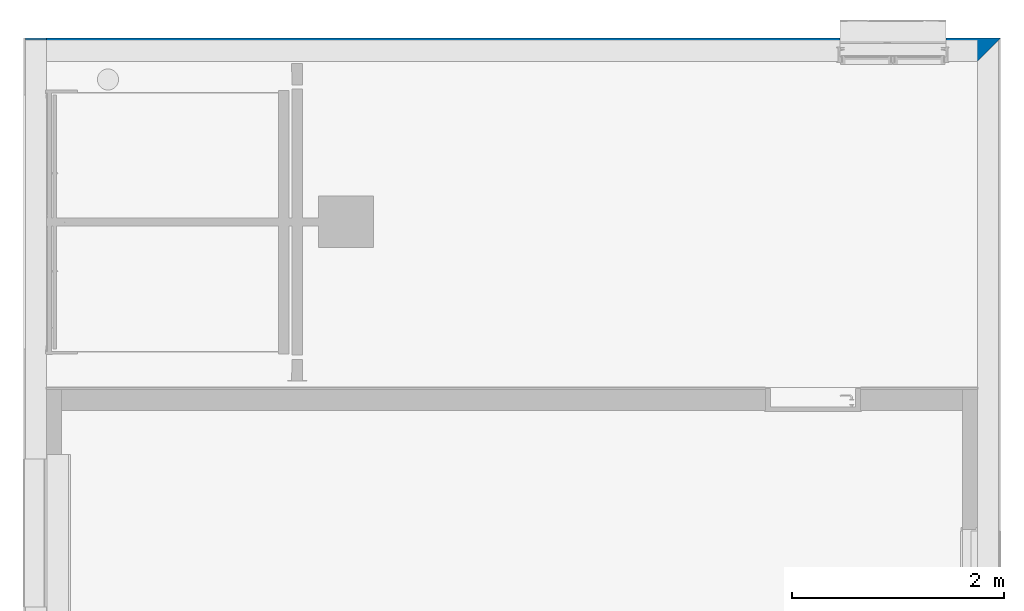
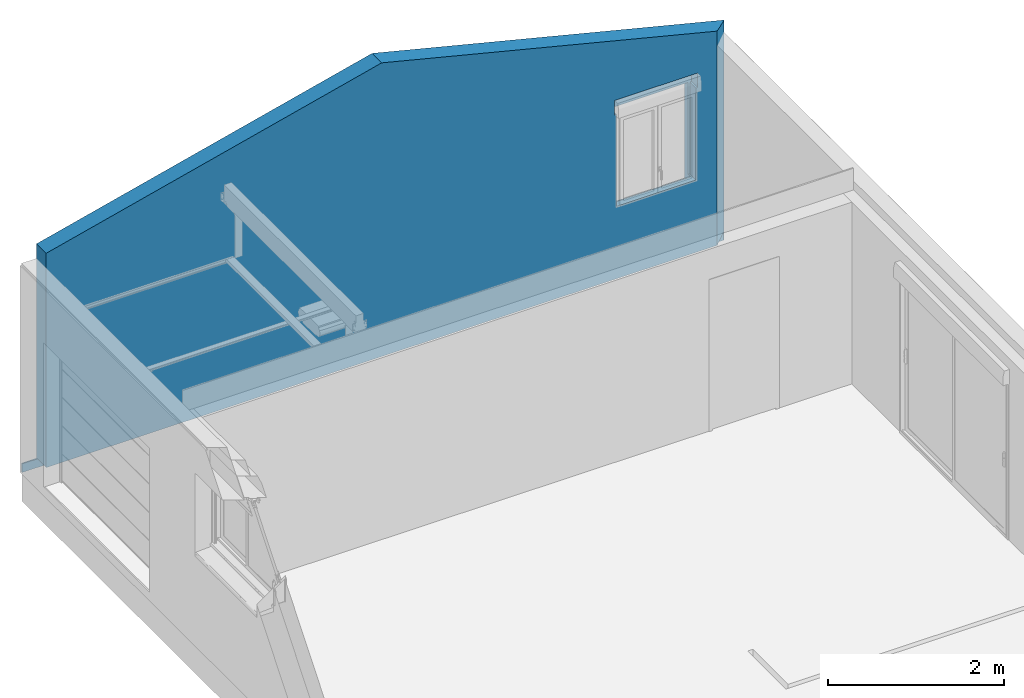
# One storey, part 6 of 7: 1 wall.
"""IFC2X3 building model written with IfcOpenShell, lengths in metres."""

from ifc_helpers import new_model, entity, si_unit, converted_unit, derived_unit, direction, frame, origin, place, context, subcontext, project, spatial, faceted_brep, material, layer, layer_set, type_object, element, save


model = new_model("IFC2X3")

# Units and contexts
model_context = context("Model", 3, precision=1e-05, world=origin(), true_north=direction((6.123031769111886e-17, 1.0)))
body_context = subcontext(model_context, "Body", "Model", "MODEL_VIEW")
ifc_project = project(units=[si_unit("LENGTHUNIT", "METRE"), si_unit("AREAUNIT", "SQUARE_METRE"), si_unit("VOLUMEUNIT", "CUBIC_METRE"), converted_unit("PLANEANGLEUNIT", "DEGREE", entity("IfcRatioMeasure", 0.017453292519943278), si_unit("PLANEANGLEUNIT", "RADIAN"), dimensions=[0, 0, 0, 0, 0, 0, 0]), si_unit("MASSUNIT", "GRAM", prefix="KILO"), derived_unit("MASSDENSITYUNIT", [(si_unit("MASSUNIT", "GRAM", prefix="KILO"), 1), (si_unit("LENGTHUNIT", "METRE"), -3)]), derived_unit("IONCONCENTRATIONUNIT", [(si_unit("MASSUNIT", "GRAM", prefix="KILO"), 1), (si_unit("LENGTHUNIT", "METRE"), -3)]), derived_unit("MOMENTOFINERTIAUNIT", [(si_unit("LENGTHUNIT", "METRE"), 4)]), si_unit("TIMEUNIT", "SECOND"), si_unit("FREQUENCYUNIT", "HERTZ"), si_unit("THERMODYNAMICTEMPERATUREUNIT", "DEGREE_CELSIUS"), derived_unit("THERMALTRANSMITTANCEUNIT", [(si_unit("MASSUNIT", "GRAM", prefix="KILO"), 1), (si_unit("THERMODYNAMICTEMPERATUREUNIT", "KELVIN"), -1), (si_unit("TIMEUNIT", "SECOND"), -3)]), derived_unit("THERMALCONDUCTANCEUNIT", [(si_unit("MASSUNIT", "GRAM", prefix="KILO"), 1), (si_unit("THERMODYNAMICTEMPERATUREUNIT", "KELVIN"), -1), (si_unit("TIMEUNIT", "SECOND"), -3), (si_unit("LENGTHUNIT", "METRE"), 1)]), derived_unit("VOLUMETRICFLOWRATEUNIT", [(si_unit("LENGTHUNIT", "METRE"), 3), (si_unit("TIMEUNIT", "SECOND"), -1)]), derived_unit("MASSFLOWRATEUNIT", [(si_unit("MASSUNIT", "GRAM", prefix="KILO"), 1), (si_unit("TIMEUNIT", "SECOND"), -1)]), derived_unit("ROTATIONALFREQUENCYUNIT", [(si_unit("TIMEUNIT", "SECOND"), -1)]), si_unit("ELECTRICCURRENTUNIT", "AMPERE"), si_unit("ELECTRICVOLTAGEUNIT", "VOLT"), si_unit("POWERUNIT", "WATT"), si_unit("FORCEUNIT", "NEWTON", prefix="KILO"), si_unit("ILLUMINANCEUNIT", "LUX"), si_unit("LUMINOUSFLUXUNIT", "LUMEN"), si_unit("LUMINOUSINTENSITYUNIT", "CANDELA"), derived_unit("USERDEFINED", [(si_unit("MASSUNIT", "GRAM", prefix="KILO"), -1), (si_unit("LENGTHUNIT", "METRE"), -2), (si_unit("TIMEUNIT", "SECOND"), 3), (si_unit("LUMINOUSFLUXUNIT", "LUMEN"), 1)]), derived_unit("USERDEFINED", [(si_unit("MASSUNIT", "GRAM", prefix="KILO"), 1), (si_unit("TIMEUNIT", "SECOND"), -3), (si_unit("LENGTHUNIT", "METRE"), 3), (si_unit("ELECTRICCURRENTUNIT", "AMPERE"), -2)]), derived_unit("SOUNDPOWERUNIT", [(si_unit("MASSUNIT", "GRAM", prefix="KILO"), 1), (si_unit("TIMEUNIT", "SECOND"), -3), (si_unit("LENGTHUNIT", "METRE"), 2)]), derived_unit("SOUNDPRESSUREUNIT", [(si_unit("MASSUNIT", "GRAM", prefix="KILO"), 1), (si_unit("LENGTHUNIT", "METRE"), -1), (si_unit("TIMEUNIT", "SECOND"), -2)]), derived_unit("LINEARVELOCITYUNIT", [(si_unit("LENGTHUNIT", "METRE"), 1), (si_unit("TIMEUNIT", "SECOND"), -1)]), si_unit("PRESSUREUNIT", "PASCAL"), derived_unit("USERDEFINED", [(si_unit("MASSUNIT", "GRAM", prefix="KILO"), 1), (si_unit("LENGTHUNIT", "METRE"), -2), (si_unit("TIMEUNIT", "SECOND"), -2)]), derived_unit("LINEARFORCEUNIT", [(si_unit("MASSUNIT", "GRAM", prefix="KILO"), 1), (si_unit("TIMEUNIT", "SECOND"), -2)]), derived_unit("PLANARFORCEUNIT", [(si_unit("MASSUNIT", "GRAM", prefix="KILO"), 1), (si_unit("LENGTHUNIT", "METRE"), -1), (si_unit("TIMEUNIT", "SECOND"), -2)]), derived_unit("SPECIFICHEATCAPACITYUNIT", [(si_unit("THERMODYNAMICTEMPERATUREUNIT", "KELVIN"), -1), (si_unit("LENGTHUNIT", "METRE"), 2), (si_unit("TIMEUNIT", "SECOND"), -2)]), derived_unit("HEATINGVALUEUNIT", [(si_unit("LENGTHUNIT", "METRE"), 2), (si_unit("TIMEUNIT", "SECOND"), -2)]), derived_unit("VAPORPERMEABILITYUNIT", [(si_unit("LENGTHUNIT", "METRE"), -1), (si_unit("TIMEUNIT", "SECOND"), 1)]), derived_unit("DYNAMICVISCOSITYUNIT", [(si_unit("MASSUNIT", "GRAM", prefix="KILO"), 1), (si_unit("TIMEUNIT", "SECOND"), -1), (si_unit("LENGTHUNIT", "METRE"), -1)]), derived_unit("THERMALEXPANSIONCOEFFICIENTUNIT", [(si_unit("THERMODYNAMICTEMPERATUREUNIT", "KELVIN"), -1)]), derived_unit("MODULUSOFELASTICITYUNIT", [(si_unit("MASSUNIT", "GRAM", prefix="KILO"), 1), (si_unit("LENGTHUNIT", "METRE"), -1), (si_unit("TIMEUNIT", "SECOND"), -2)]), derived_unit("ISOTHERMALMOISTURECAPACITYUNIT", [(si_unit("LENGTHUNIT", "METRE"), 3), (si_unit("MASSUNIT", "GRAM", prefix="KILO"), -1)]), derived_unit("MOISTUREDIFFUSIVITYUNIT", [(si_unit("TIMEUNIT", "SECOND"), -1), (si_unit("LENGTHUNIT", "METRE"), 2)])], contexts=[model_context])

# Site, building, storey
site_placement = place(None, frame((1.2553507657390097, -0.6266432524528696, -1.0397761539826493), z_axis=(0.0, 0.0, 1.0), x_axis=(-1.0, 0.0, 0.0)))
site = spatial("IfcSite", under=ifc_project, at=site_placement, Name="Default", CompositionType="ELEMENT")
building_placement = place(site_placement, origin())
building = spatial("IfcBuilding", under=site, at=building_placement, Name="MAISON D'HABITATION", CompositionType="ELEMENT")
storey_placement = place(building_placement, frame((0.0, 0.0, 0.38977615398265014)))
storey = spatial("IfcBuildingStorey", under=building, at=storey_placement, Name="Niveau dessus semelle filante", CompositionType="ELEMENT", Elevation=0.38977615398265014)

# Wall
ifc_material_1 = material(Name="Enduit gratté")
ifc_layer_1 = layer(ifc_material_1, 0.018)
ifc_material_2 = material(Name="Agglo creux, parpaing")
ifc_layer_2 = layer(ifc_material_2, 0.2)
ifc_layer_set = layer_set([ifc_layer_1, ifc_layer_2], Name="Mur de base:parpaing+enduit 18cm")
wall_type = type_object("IfcWallType", Name="Mur de base:parpaing+enduit 18cm", PredefinedType="STANDARD", material=ifc_layer_set)
wall_placement = place(storey_placement, frame((4.320133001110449, -8.572816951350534, 0.39999999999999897), z_axis=(0.0, 0.0, 1.0), x_axis=(-1.0, 0.0, 0.0)))
element("IfcWall", 1, at=wall_placement, inside=storey, type_object=wall_type, Name="Mur de base:parpaing+enduit 18cm", ObjectType="Mur de base:parpaing+enduit 18cm", context=body_context, shape_type="Brep", body=[
    faceted_brep([(0.20000000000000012, -0.10900000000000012, 0.12000000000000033), (9.0, -0.10899999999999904, 0.12000000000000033), (9.0, -0.10899999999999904, 3.0915535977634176), (4.600000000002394, -0.10900000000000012, 4.191860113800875), (0.20000000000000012, -0.10900000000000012, 3.091553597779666), (8.718999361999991, -0.10899999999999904, 1.1245000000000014), (7.681000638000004, -0.10899999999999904, 1.1245000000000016), (7.681000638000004, -0.10899999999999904, 2.40000000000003), (7.656, -0.10899999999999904, 2.400000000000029), (7.656, -0.10899999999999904, 2.599999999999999), (8.744000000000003, -0.10899999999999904, 2.599999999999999), (8.744000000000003, -0.10899999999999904, 2.40000000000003), (8.718999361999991, -0.10899999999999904, 2.40000000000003), (4.600000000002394, 0.10900000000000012, 4.191860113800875), (9.218, 0.10900000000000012, 3.037038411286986), (9.218, 0.10900000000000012, 0.0), (0.0, 0.10900000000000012, 0.0), (0.0, 0.10899999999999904, 0.12000000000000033), (0.2000000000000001, 0.10900000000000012, 0.12000000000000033), (0.2000000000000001, 0.10900000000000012, 2.889999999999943), (0.2000000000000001, 0.10900000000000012, 3.091553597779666), (8.700000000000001, 0.10900000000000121, 2.399999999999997), (7.7, 0.10900000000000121, 2.399999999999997), (7.7, 0.10900000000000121, 1.024499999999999), (8.7, 0.10900000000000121, 1.0244999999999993), (0.2000000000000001, 0.09099999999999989, 0.12000000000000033), (9.200000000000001, 0.09100000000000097, 0.12000000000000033), (0.0, 0.0909999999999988, 0.12000000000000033), (0.0, 0.0909999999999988, 0.0), (9.2, 0.09099999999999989, 0.0), (8.700000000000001, 0.030999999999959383, 2.399999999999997), (7.7, 0.03099999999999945, 2.399999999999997), (7.667999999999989, 0.03099999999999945, 1.1245000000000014), (7.667999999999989, 0.018000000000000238, 1.1245000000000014), (7.681000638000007, 0.018000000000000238, 1.1245000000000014), (8.718999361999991, 0.018000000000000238, 1.1245000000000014), (8.731999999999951, 0.018000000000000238, 1.1245000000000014), (8.731999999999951, 0.030999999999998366, 1.1245000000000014), (8.700000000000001, 0.030999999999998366, 1.1245000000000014), (8.700000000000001, 0.01100000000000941, 1.1245000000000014), (8.700000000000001, -0.028999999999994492, 1.1245000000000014), (7.7, -0.028999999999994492, 1.1245000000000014), (7.7, 0.01100000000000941, 1.1245000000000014), (7.7, 0.03099999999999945, 1.1245000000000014), (7.7, -0.028999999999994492, 1.0677809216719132), (7.7, 0.031000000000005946, 1.0244999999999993), (8.7, 0.031000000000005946, 1.0244999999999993), (8.7, -0.028999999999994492, 1.0677809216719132), (8.731999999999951, 0.03099999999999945, 2.40000000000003), (8.744000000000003, 0.030999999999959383, 2.400000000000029), (8.744000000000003, 0.03099999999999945, 2.599999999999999), (7.656, 0.030999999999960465, 2.599999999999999), (7.656, 0.030999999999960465, 2.40000000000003), (7.667999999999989, 0.03099999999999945, 2.399999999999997), (7.667999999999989, 0.018000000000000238, 2.399999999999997), (8.731999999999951, 0.018000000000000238, 2.40000000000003), (7.681000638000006, 0.018000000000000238, 2.399999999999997), (8.718999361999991, 0.018000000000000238, 2.399999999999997)], [[[0, 1, 2, 3, 4], [5, 6, 7, 8, 9, 10, 11, 12]], [[13, 14, 15, 16, 17, 18, 19, 20], [21, 22, 23, 24]], [[1, 0, 25, 26]], [[26, 25, 27, 28, 29]], [[3, 2, 14, 13]], [[4, 3, 13, 20]], [[2, 1, 26, 29, 15, 14]], [[30, 31, 22, 21]], [[32, 33, 34, 6, 5, 35, 36, 37, 38, 39, 40, 41, 42, 43]], [[42, 41, 44, 45, 23, 22, 31, 43]], [[39, 38, 30, 21, 24, 46, 47, 40]], [[31, 30, 38, 37, 48, 49, 50, 51, 52, 53, 32, 43]], [[33, 32, 53, 54]], [[37, 36, 55, 48]], [[34, 33, 54, 56]], [[6, 34, 56, 7]], [[35, 5, 12, 57]], [[36, 35, 57, 55]], [[52, 51, 9, 8]], [[50, 49, 11, 10]], [[53, 52, 8, 7, 56, 54]], [[51, 50, 10, 9]], [[45, 46, 24, 23]], [[45, 44, 47, 46]], [[41, 40, 47, 44]], [[0, 4, 20, 19, 18, 25]], [[16, 15, 29, 28]], [[27, 25, 18, 17]], [[16, 28, 27, 17]], [[49, 48, 55, 57, 12, 11]]]),
])

save(model, "model.ifc")
